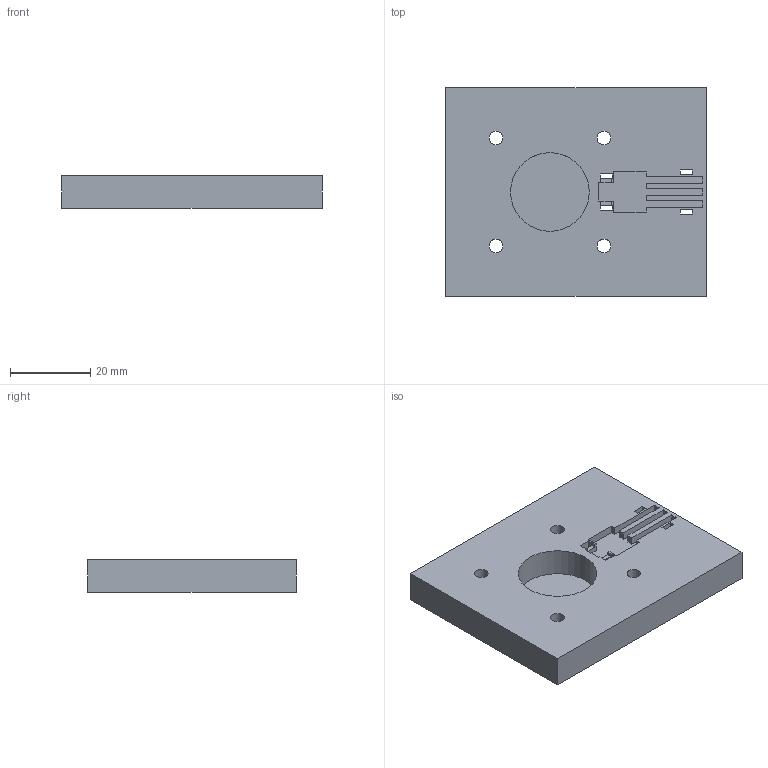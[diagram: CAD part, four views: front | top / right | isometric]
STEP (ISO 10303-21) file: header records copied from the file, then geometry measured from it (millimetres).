
FILE_DESCRIPTION(('Open CASCADE Model'),'2;1');
FILE_NAME('Open CASCADE Shape Model','2026-11-11T17:26:39',('Author'),( 'Open CASCADE'),'Open CASCADE STEP processor 7.9','Open CASCADE 7.9' ,'Unknown');
FILE_SCHEMA(('AUTOMOTIVE_DESIGN { 1 0 10303 214 1 1 1 1 }'));
Length unit declared in the file: millimetre
Products named in the file (1): Open CASCADE STEP translator 7.9 6
Bounding box: 65 x 52 x 8 mm (x, y, z)
Volume: 24187 mm3; surface area: 9822.3 mm2
Topology: 1 solids, 1 shells, 55 faces, 159 edges, 106 vertices
Faces by surface type: plane 50, cylinder 5
Full cylindrical faces by diameter (mm): 3.4 x4, 19.6 x1
Entity records: 3892 total; most frequent: CARTESIAN_POINT 639, DIRECTION 599, LINE 457, VECTOR 457, ORIENTED_EDGE 318, PCURVE 318, DEFINITIONAL_REPRESENTATION 318, EDGE_CURVE 159
